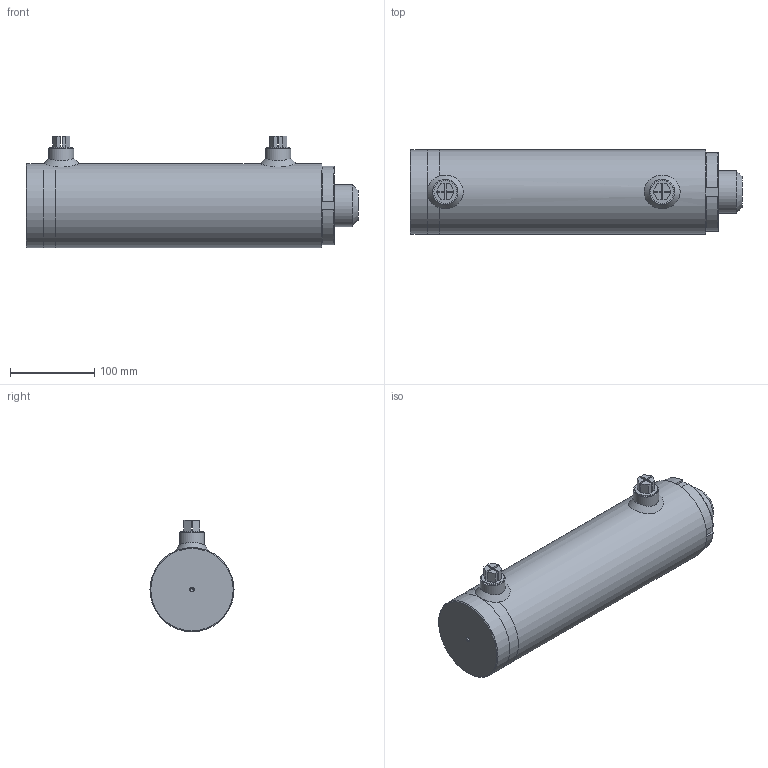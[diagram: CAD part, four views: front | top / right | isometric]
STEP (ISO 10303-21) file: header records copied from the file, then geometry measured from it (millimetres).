
FILE_DESCRIPTION( ( 'Unknown' ), '1' );
FILE_NAME( 'E:/LIBRERIA_3d/CILINDRI/HM0PM/HM0PM0800500200.stp', 'Unknown', ( 'Unknown' ), ( 'Unknown' ), 'PSStep 17.0.49', 'Unknown', ' ' );
FILE_SCHEMA( ( 'AUTOMOTIVE_DESIGN { 1 0 10303 214 1 1 1 1 }' ) );
Length unit declared in the file: millimetre
Products named in the file (18): CGPM100080050; STSP0801000200-oa4; Saldatura d'angolo 1-oa2; MAT_PRIMA_TUBO_FTL1000800-oa3; CBSC220800; ctpm080041056; AVG3006100; CTPM080041056; Assem1; Saldatura con preparazione 1-oa0; Saldatura d'angolo 1-oa1; SBLP0500800200; CFPM100080030; APSEP43527
Assembly tree (15 placements, depth 3):
  Saldatura d'angolo 1-oa2
  Saldatura d'angolo 1-oa2
  Assem1
    CBSC220800
    Saldatura con preparazione 1-oa0
    Saldatura con preparazione 1-oa0
    SBLP0500800200
    CFPM100080030
    APSEP43527  x2
    CGPM100080050
      CGPM100080050
    ctpm080041056
      AVG3006100
      CTPM080041056
    STSP0801000200-oa4
      MAT_PRIMA_TUBO_FTL1000800-oa3
      CBSC220800
  Saldatura d'angolo 1-oa1
  Saldatura d'angolo 1-oa1
Bounding box: 395 x 100 x 132.5 mm (x, y, z)
Volume: 2229802.3 mm3; surface area: 394365.7 mm2
Topology: 16 solids, 16 shells, 294 faces, 631 edges, 399 vertices
Faces by surface type: plane 111, cylinder 79, torus 58, cone 42, bspline 4
Full cylindrical faces by diameter (mm): 4.25 x1, 5 x1, 6 x1, 6.25 x1, 7.5 x2, 12 x2, 18.631 x2, 20.955 x2, 27.2 x2, 30 x8, 30.835 x1, 33 x2, 40 x3, 44.5 x1, 50 x1, 50.8 x5, 55 x2, 60 x2, 65 x2, 65.1 x1, 70 x1, 74.5 x1, 75 x2, 79 x4, 79.9 x1, 80 x1, 80.3 x1, 80.5 x2, 80.6 x1, 82 x6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
Entity records: 10278 total; most frequent: CARTESIAN_POINT 3776, DIRECTION 1082, ORIENTED_EDGE 720, AXIS2_PLACEMENT_3D 484, EDGE_LOOP 464, FACE_OUTER_BOUND 376, EDGE_CURVE 360, VERTEX_POINT 308
